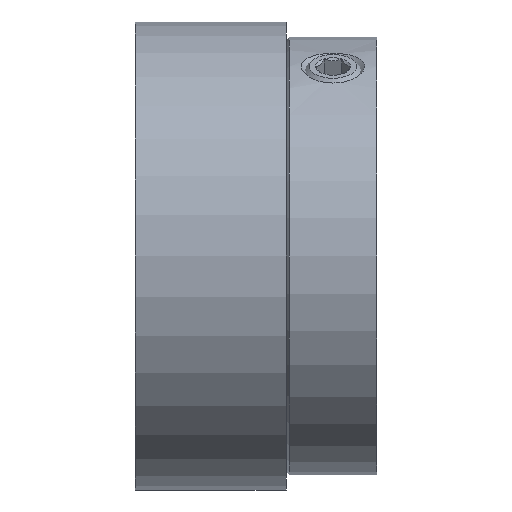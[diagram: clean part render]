
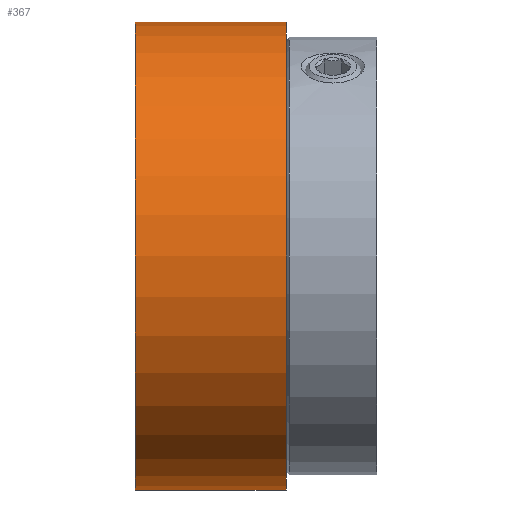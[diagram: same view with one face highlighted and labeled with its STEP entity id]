
A CAD part, front view. The second image highlights one B-rep face of the part: STEP entity #367.
In plain terms, the highlighted cylindrical face has radius 15.5 mm (diameter 31 mm), a full revolution.
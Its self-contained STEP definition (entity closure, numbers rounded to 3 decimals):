
#146 = DIRECTION ( 'NONE',  ( 0., 0., 1. ) ) ;
#147 = DIRECTION ( 'NONE',  ( -1., 0., 0. ) ) ;
#148 = CARTESIAN_POINT ( 'NONE',  ( -9.08, 0.138, 0. ) ) ;
#156 = DIRECTION ( 'NONE',  ( -1., 0., 0. ) ) ;
#209 = CARTESIAN_POINT ( 'NONE',  ( 0.92, 0.138, 0. ) ) ;
#220 = DIRECTION ( 'NONE',  ( 0., 0., 1. ) ) ;
#367 = ADVANCED_FACE ( 'NONE', ( #549, #550 ), #555, .T. ) ;
#446 = CARTESIAN_POINT ( 'NONE',  ( -9.08, 0.138, 15.5 ) ) ;
#452 = CARTESIAN_POINT ( 'NONE',  ( 0.92, 0.138, 15.5 ) ) ;
#549 = FACE_OUTER_BOUND ( 'NONE', #1307, .T. ) ;
#550 = FACE_OUTER_BOUND ( 'NONE', #1308, .T. ) ;
#555 = CYLINDRICAL_SURFACE ( 'NONE', #1413, 15.5 ) ;
#664 = CIRCLE ( 'NONE', #1334, 15.5 ) ;
#759 = ORIENTED_EDGE ( 'NONE', *, *, #1425, .T. ) ;
#878 = CIRCLE ( 'NONE', #1502, 15.5 ) ;
#910 = VERTEX_POINT ( 'NONE', #452 ) ;
#916 = VERTEX_POINT ( 'NONE', #446 ) ;
#1022 = DIRECTION ( 'NONE',  ( 1., 0., 0. ) ) ;
#1031 = CARTESIAN_POINT ( 'NONE',  ( -9.08, 0.138, 0. ) ) ;
#1037 = DIRECTION ( 'NONE',  ( 0., 0., -1. ) ) ;
#1269 = ORIENTED_EDGE ( 'NONE', *, *, #1439, .F. ) ;
#1307 = EDGE_LOOP ( 'NONE', ( #1269 ) ) ;
#1308 = EDGE_LOOP ( 'NONE', ( #759 ) ) ;
#1334 = AXIS2_PLACEMENT_3D ( 'NONE', #209, #156, #220 ) ;
#1413 = AXIS2_PLACEMENT_3D ( 'NONE', #1031, #1022, #1037 ) ;
#1425 = EDGE_CURVE ( 'NONE', #910, #910, #664, .T. ) ;
#1439 = EDGE_CURVE ( 'NONE', #916, #916, #878, .T. ) ;
#1502 = AXIS2_PLACEMENT_3D ( 'NONE', #148, #147, #146 ) ;
